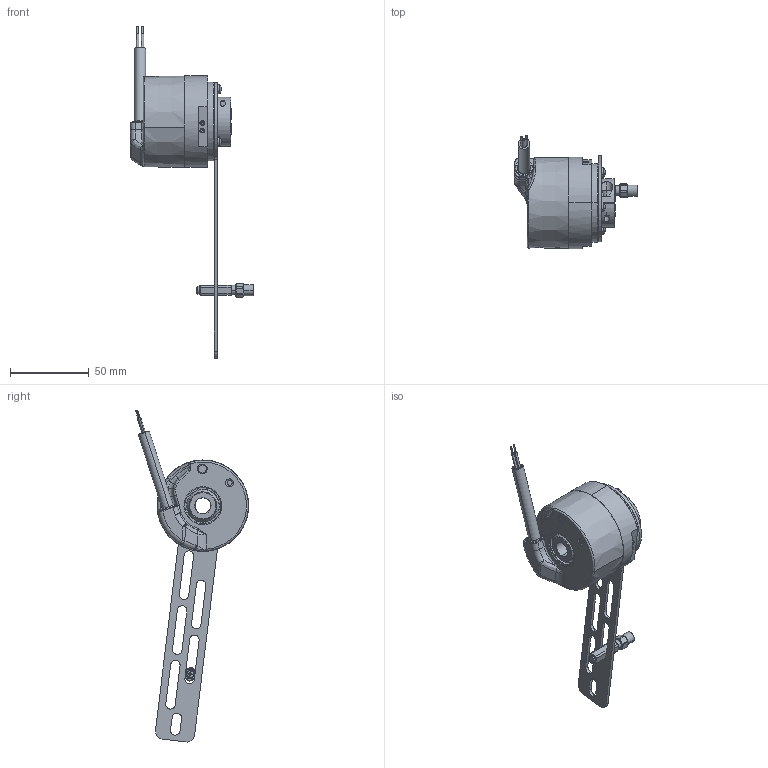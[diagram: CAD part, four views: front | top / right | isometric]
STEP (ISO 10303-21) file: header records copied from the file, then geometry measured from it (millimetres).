
FILE_DESCRIPTION (( 'STEP AP214' ), '1' );
FILE_NAME ('5834SIL.A3XE.XXXX.STEP', '2010-08-13T07:49:44', ( 'admin' ), ( 'Fritz Kübler GmbH' ), 'SwSTEP 2.0', 'SolidWorks 2009', '' );
FILE_SCHEMA (( 'AUTOMOTIVE_DESIGN' ));
Length unit declared in the file: millimetre
Products named in the file (1): 5834SIL.A3XE.XXXX
Bounding box: 78 x 71.81 x 210.53 mm (x, y, z)
Surface area: 32603.2 mm2 (no closed solid volume)
Topology: 0 solids, 17 shells, 362 faces, 1013 edges, 666 vertices
Faces by surface type: cylinder 129, plane 112, cone 66, torus 22, bspline 22, sphere 11
Entity records: 18293 total; most frequent: CARTESIAN_POINT 4950, DIRECTION 2062, ORIENTED_EDGE 1775, EDGE_CURVE 1010, AXIS2_PLACEMENT_3D 823, VERTEX_POINT 666, CIRCLE 482, EDGE_LOOP 421
